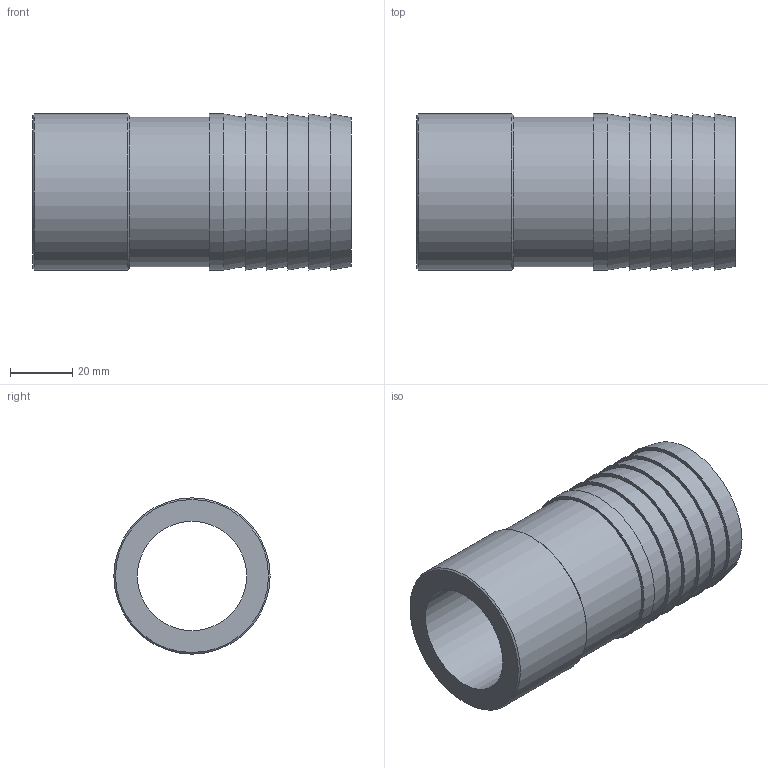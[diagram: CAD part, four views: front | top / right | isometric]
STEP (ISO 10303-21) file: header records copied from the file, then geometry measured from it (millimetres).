
FILE_DESCRIPTION(/* description */ ('PLASSON HOSE NOZZLE-CEM. PVC 50'),/* implementation_level */ '2;1');
FILE_NAME(/* name */ 'C:\Dropbox\KIMPROJECTS-Inventor\99-16-3568-Processing\PVC Catalog 2017\053600\053600050.ipt.stp',/* time_stamp */ '2017-12-07T16:02:59+02:00',/* author */ ('KIM'),/* organization */ (''),/* preprocessor_version */ 'ST-DEVELOPER v15.6',/* originating_system */ 'Autodesk Inventor 2015',/* authorisation */ '');
FILE_SCHEMA (('AUTOMOTIVE_DESIGN { 1 0 10303 214 3 1 1 }'));
Length unit declared in the file: millimetre
Products named in the file (1): 053600050
Bounding box: 102 x 50 x 50 mm (x, y, z)
Volume: 94395.8 mm3; surface area: 29973.5 mm2
Topology: 1 solids, 1 shells, 21 faces, 33 edges, 21 vertices
Faces by surface type: plane 9, cone 8, cylinder 4
Full cylindrical faces by diameter (mm): 35 x1, 48 x1, 50 x2
Entity records: 452 total; most frequent: DIRECTION 86, CARTESIAN_POINT 64, AXIS2_PLACEMENT_3D 43, EDGE_LOOP 42, ORIENTED_EDGE 42, FACE_BOUND 21, FACE_OUTER_BOUND 21, CIRCLE 21
